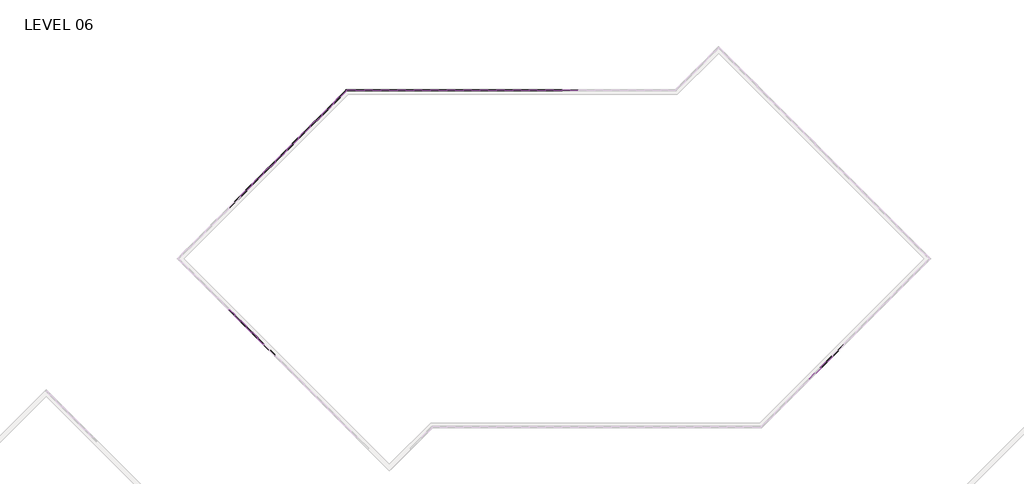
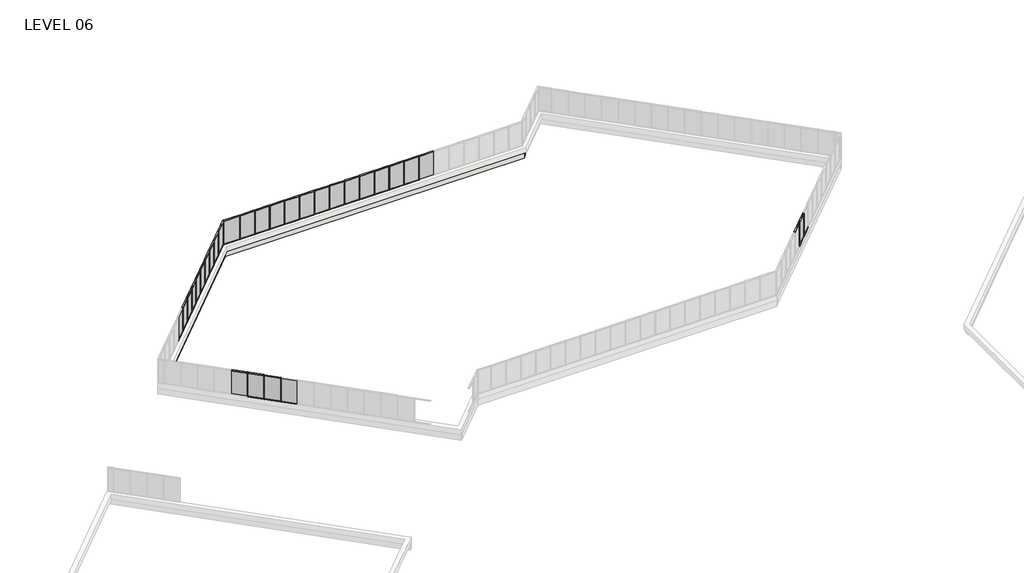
# One storey, part 14 of 17: 85 members, 29 plates, 2 walls.
"""IFC4 building model written with IfcOpenShell, lengths in millimetres."""

from ifc_helpers import new_model, si_unit, origin, place, context, project, spatial, faceted_brep, transform, mapped, element, save
from components import member_5247f267, member_e44af9ab, member_800970d4, member_1bd862b2, member_7ca0f77f, plate_67294edd, plate_bbcbcabf, plate_3fb62afd, plate_e0fd5134

model = new_model("IFC4")

# Units and contexts
model_context = context("Model", 3, world=origin())
ifc_project = project(units=[si_unit("LENGTHUNIT", "METRE", prefix="MILLI")], contexts=[model_context])

# Site, building, storey
site = spatial("IfcSite", under=ifc_project)
building = spatial("IfcBuilding", under=site)
storey = spatial("IfcBuildingStorey", under=building, Name="LEVEL 06", Elevation=19596.1)

# Members
placement = place(None, origin())
member_shape = member_5247f267(model_context)
element("IfcMember", 1, ObjectType="Rectangular Mullion : 2\" x 4.5\" rectangular", at=placement, inside=storey, context=model_context, shape_type="MappedRepresentation", body=[
    mapped(member_shape, transform((30562.55, 120127.9523049, 19596.1), x_axis=(0.0, 0.0, -1.0), y_axis=(0.0, 1.0, 0.0), z_axis=(1.0, 0.0, 0.0))),
])
element("IfcMember", 2, ObjectType="Rectangular Mullion : 2\" x 4.5\" rectangular", at=placement, inside=storey, context=model_context, shape_type="MappedRepresentation", body=[
    mapped(member_shape, transform((29038.55, 120127.9523049, 19596.1), x_axis=(0.0, 0.0, -1.0), y_axis=(0.0, 1.0, 0.0), z_axis=(1.0, 0.0, 0.0))),
])
element("IfcMember", 3, ObjectType="Rectangular Mullion : 2\" x 4.5\" rectangular", at=placement, inside=storey, context=model_context, shape_type="MappedRepresentation", body=[
    mapped(member_shape, transform((27514.55, 120127.9523049, 19596.1), x_axis=(0.0, 0.0, -1.0), y_axis=(0.0, 1.0, 0.0), z_axis=(1.0, 0.0, 0.0))),
])
element("IfcMember", 4, ObjectType="Rectangular Mullion : 2\" x 4.5\" rectangular", at=placement, inside=storey, context=model_context, shape_type="MappedRepresentation", body=[
    mapped(member_shape, transform((24466.55, 120127.9523049, 19596.1), x_axis=(0.0, 0.0, -1.0), y_axis=(0.0, 1.0, 0.0), z_axis=(1.0, 0.0, 0.0))),
])
element("IfcMember", 5, ObjectType="Rectangular Mullion : 2\" x 4.5\" rectangular", at=placement, inside=storey, context=model_context, shape_type="MappedRepresentation", body=[
    mapped(member_shape, transform((22942.55, 120127.9523049, 19596.1), x_axis=(0.0, 0.0, -1.0), y_axis=(0.0, 1.0, 0.0), z_axis=(1.0, 0.0, 0.0))),
])
element("IfcMember", 6, ObjectType="Rectangular Mullion : 2\" x 4.5\" rectangular", at=placement, inside=storey, context=model_context, shape_type="MappedRepresentation", body=[
    mapped(member_shape, transform((19894.55, 120127.9523049, 19596.1), x_axis=(0.0, 0.0, -1.0), y_axis=(0.0, 1.0, 0.0), z_axis=(1.0, 0.0, 0.0))),
])
element("IfcMember", 7, ObjectType="Rectangular Mullion : 2\" x 4.5\" rectangular", at=placement, inside=storey, context=model_context, shape_type="MappedRepresentation", body=[
    mapped(member_shape, transform((15322.55, 120127.9523049, 19596.1), x_axis=(0.0, 0.0, -1.0), y_axis=(0.0, 1.0, 0.0), z_axis=(1.0, 0.0, 0.0))),
])
element("IfcMember", 8, ObjectType="Rectangular Mullion : 2\" x 4.5\" rectangular", at=placement, inside=storey, context=model_context, shape_type="MappedRepresentation", body=[
    mapped(member_shape, transform((13798.55, 120127.9523049, 19596.1), x_axis=(0.0, 0.0, -1.0), y_axis=(0.0, 1.0, 0.0), z_axis=(1.0, 0.0, 0.0))),
])
element("IfcMember", 9, ObjectType="Rectangular Mullion : 2\" x 4.5\" rectangular", at=placement, inside=storey, context=model_context, shape_type="MappedRepresentation", body=[
    mapped(member_shape, transform((21418.55, 120127.9523049, 19596.1), x_axis=(0.0, 0.0, -1.0), y_axis=(0.0, 1.0, 0.0), z_axis=(1.0, 0.0, 0.0))),
])
element("IfcMember", 10, ObjectType="Rectangular Mullion : 2\" x 4.5\" rectangular", at=placement, inside=storey, context=model_context, shape_type="MappedRepresentation", body=[
    mapped(member_shape, transform((25990.55, 120127.9523049, 19596.1), x_axis=(0.0, 0.0, -1.0), y_axis=(0.0, 1.0, 0.0), z_axis=(1.0, 0.0, 0.0))),
])
element("IfcMember", 11, ObjectType="Rectangular Mullion : 2\" x 4.5\" rectangular", at=placement, inside=storey, context=model_context, shape_type="MappedRepresentation", body=[
    mapped(member_shape, transform((18370.55, 120127.9523049, 19596.1), x_axis=(0.0, 0.0, -1.0), y_axis=(0.0, 1.0, 0.0), z_axis=(1.0, 0.0, 0.0))),
])
element("IfcMember", 12, ObjectType="Rectangular Mullion : 2\" x 4.5\" rectangular", at=placement, inside=storey, context=model_context, shape_type="MappedRepresentation", body=[
    mapped(member_shape, transform((16846.55, 120127.9523049, 19596.1), x_axis=(0.0, 0.0, -1.0), y_axis=(0.0, 1.0, 0.0), z_axis=(1.0, 0.0, 0.0))),
])
element("IfcMember", 13, ObjectType="Rectangular Mullion : 2\" x 4.5\" rectangular", at=placement, inside=storey, context=model_context, shape_type="MappedRepresentation", body=[
    mapped(member_shape, transform((9397.6593581, 118915.3677986, 19596.1), x_axis=(0.0, 0.0, -1.0), y_axis=(-0.7071067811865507, 0.7071067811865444, 0.0), z_axis=(0.7071067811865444, 0.7071067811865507, 0.0))),
])
element("IfcMember", 14, ObjectType="Rectangular Mullion : 2\" x 4.5\" rectangular", at=placement, inside=storey, context=model_context, shape_type="MappedRepresentation", body=[
    mapped(member_shape, transform((8320.0286235, 117837.7370641, 19596.1), x_axis=(0.0, 0.0, -1.0), y_axis=(-0.7071067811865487, 0.7071067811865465, 0.0), z_axis=(0.7071067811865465, 0.7071067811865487, 0.0))),
])
element("IfcMember", 15, ObjectType="Rectangular Mullion : 2\" x 4.5\" rectangular", at=placement, inside=storey, context=model_context, shape_type="MappedRepresentation", body=[
    mapped(member_shape, transform((7242.397889, 116760.1063296, 19596.1), x_axis=(0.0, 0.0, -1.0), y_axis=(-0.7071067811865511, 0.707106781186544, 0.0), z_axis=(0.707106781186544, 0.7071067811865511, 0.0))),
])
element("IfcMember", 16, ObjectType="Rectangular Mullion : 2\" x 4.5\" rectangular", at=placement, inside=storey, context=model_context, shape_type="MappedRepresentation", body=[
    mapped(member_shape, transform((6164.7671545, 115682.475595, 19596.1), x_axis=(0.0, 0.0, -1.0), y_axis=(-0.7071067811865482, 0.7071067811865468, 0.0), z_axis=(0.7071067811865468, 0.7071067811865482, 0.0))),
])
element("IfcMember", 17, ObjectType="Rectangular Mullion : 2\" x 4.5\" rectangular", at=placement, inside=storey, context=model_context, shape_type="MappedRepresentation", body=[
    mapped(member_shape, transform((4009.5056854, 113527.214126, 19596.1), x_axis=(0.0, 0.0, -1.0), y_axis=(-0.7071067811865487, 0.7071067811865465, 0.0), z_axis=(0.7071067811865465, 0.7071067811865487, 0.0))),
])
element("IfcMember", 18, ObjectType="Rectangular Mullion : 2\" x 4.5\" rectangular", at=placement, inside=storey, context=model_context, shape_type="MappedRepresentation", body=[
    mapped(member_shape, transform((2931.8749509, 112449.5833914, 19596.1), x_axis=(0.0, 0.0, -1.0), y_axis=(-0.7071067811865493, 0.7071067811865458, 0.0), z_axis=(0.7071067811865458, 0.7071067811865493, 0.0))),
])
element("IfcMember", 19, ObjectType="Rectangular Mullion : 2\" x 4.5\" rectangular", at=placement, inside=storey, context=model_context, shape_type="MappedRepresentation", body=[
    mapped(member_shape, transform((1854.2442164, 111371.9526569, 19596.1), x_axis=(0.0, 0.0, -1.0), y_axis=(-0.7071067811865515, 0.7071067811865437, 0.0), z_axis=(0.7071067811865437, 0.7071067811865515, 0.0))),
])
element("IfcMember", 20, ObjectType="Rectangular Mullion : 2\" x 4.5\" rectangular", at=placement, inside=storey, context=model_context, shape_type="MappedRepresentation", body=[
    mapped(member_shape, transform((5087.1364199, 114604.8448605, 19596.1), x_axis=(0.0, 0.0, -1.0), y_axis=(-0.7071067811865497, 0.7071067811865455, 0.0), z_axis=(0.7071067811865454, 0.7071067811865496, 0.0))),
])
element("IfcMember", 21, ObjectType="Rectangular Mullion : 2\" x 4.5\" rectangular", at=placement, inside=storey, context=model_context, shape_type="MappedRepresentation", body=[
    mapped(member_shape, transform((776.6134818, 110294.3219224, 19596.1), x_axis=(0.0, 0.0, -1.0), y_axis=(-0.7071067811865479, 0.7071067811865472, 0.0), z_axis=(0.7071067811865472, 0.7071067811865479, 0.0))),
])
element("IfcMember", 22, ObjectType="Rectangular Mullion : 2\" x 4.5\" rectangular", at=placement, inside=storey, context=model_context, shape_type="MappedRepresentation", body=[
    mapped(member_shape, transform((812.713179, 98753.3329903, 19596.1), x_axis=(0.0, 0.0, -1.0), y_axis=(-0.7071067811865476, -0.7071067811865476, 0.0), z_axis=(-0.7071067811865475, 0.7071067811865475, 0.0))),
])
element("IfcMember", 23, ObjectType="Rectangular Mullion : 2\" x 4.5\" rectangular", at=placement, inside=storey, context=model_context, shape_type="MappedRepresentation", body=[
    mapped(member_shape, transform((1890.3439135, 97675.7022558, 19596.1), x_axis=(0.0, 0.0, -1.0), y_axis=(-0.7071067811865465, -0.7071067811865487, 0.0), z_axis=(-0.7071067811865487, 0.7071067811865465, 0.0))),
])
element("IfcMember", 24, ObjectType="Rectangular Mullion : 2\" x 4.5\" rectangular", at=placement, inside=storey, context=model_context, shape_type="MappedRepresentation", body=[
    mapped(member_shape, transform((2967.974648, 96598.0715213, 19596.1), x_axis=(0.0, 0.0, -1.0), y_axis=(-0.7071067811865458, -0.7071067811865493, 0.0), z_axis=(-0.7071067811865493, 0.7071067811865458, 0.0))),
])
element("IfcMember", 25, ObjectType="Rectangular Mullion : 2\" x 4.5\" rectangular", at=placement, inside=storey, context=model_context, shape_type="MappedRepresentation", body=[
    mapped(member_shape, transform((55642.2748488, 95556.4210181, 19596.1), x_axis=(0.0, 0.0, -1.0), y_axis=(0.7071067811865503, -0.7071067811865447, 0.0), z_axis=(-0.7071067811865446, -0.7071067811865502, 0.0))),
])
element("IfcMember", 26, ObjectType="Rectangular Mullion : 2\" x 4.5\" rectangular", at=placement, inside=storey, context=model_context, shape_type="MappedRepresentation", body=[
    mapped(member_shape, transform((54564.6515152, 94478.7976845, 19596.1), x_axis=(0.0, 0.0, -1.0), y_axis=(0.7071067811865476, -0.7071067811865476, 0.0), z_axis=(-0.7071067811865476, -0.7071067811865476, 0.0))),
])
element("IfcMember", 27, ObjectType="Rectangular Mullion : 2\" x 4.5\" rectangular", at=placement, inside=storey, context=model_context, shape_type="MappedRepresentation", body=[
    mapped(member_shape, transform((30613.35, 120127.9523049, 22186.9), x_axis=(0.0, 0.0, 1.0), y_axis=(0.0, 1.0, 0.0), z_axis=(-1.0, 0.0, 0.0))),
])
element("IfcMember", 28, ObjectType="Rectangular Mullion : 2\" x 4.5\" rectangular", at=placement, inside=storey, context=model_context, shape_type="MappedRepresentation", body=[
    mapped(member_shape, transform((29089.35, 120127.9523049, 22186.9), x_axis=(0.0, 0.0, 1.0), y_axis=(0.0, 1.0, 0.0), z_axis=(-1.0, 0.0, 0.0))),
])
element("IfcMember", 29, ObjectType="Rectangular Mullion : 2\" x 4.5\" rectangular", at=placement, inside=storey, context=model_context, shape_type="MappedRepresentation", body=[
    mapped(member_shape, transform((27565.35, 120127.9523049, 22186.9), x_axis=(0.0, 0.0, 1.0), y_axis=(0.0, 1.0, 0.0), z_axis=(-1.0, 0.0, 0.0))),
])
element("IfcMember", 30, ObjectType="Rectangular Mullion : 2\" x 4.5\" rectangular", at=placement, inside=storey, context=model_context, shape_type="MappedRepresentation", body=[
    mapped(member_shape, transform((24517.35, 120127.9523049, 22186.9), x_axis=(0.0, 0.0, 1.0), y_axis=(0.0, 1.0, 0.0), z_axis=(-1.0, 0.0, 0.0))),
])
element("IfcMember", 31, ObjectType="Rectangular Mullion : 2\" x 4.5\" rectangular", at=placement, inside=storey, context=model_context, shape_type="MappedRepresentation", body=[
    mapped(member_shape, transform((22993.35, 120127.9523049, 22186.9), x_axis=(0.0, 0.0, 1.0), y_axis=(0.0, 1.0, 0.0), z_axis=(-1.0, 0.0, 0.0))),
])
element("IfcMember", 32, ObjectType="Rectangular Mullion : 2\" x 4.5\" rectangular", at=placement, inside=storey, context=model_context, shape_type="MappedRepresentation", body=[
    mapped(member_shape, transform((19945.35, 120127.9523049, 22186.9), x_axis=(0.0, 0.0, 1.0), y_axis=(0.0, 1.0, 0.0), z_axis=(-1.0, 0.0, 0.0))),
])
element("IfcMember", 33, ObjectType="Rectangular Mullion : 2\" x 4.5\" rectangular", at=placement, inside=storey, context=model_context, shape_type="MappedRepresentation", body=[
    mapped(member_shape, transform((15373.35, 120127.9523049, 22186.9), x_axis=(0.0, 0.0, 1.0), y_axis=(0.0, 1.0, 0.0), z_axis=(-1.0, 0.0, 0.0))),
])
element("IfcMember", 34, ObjectType="Rectangular Mullion : 2\" x 4.5\" rectangular", at=placement, inside=storey, context=model_context, shape_type="MappedRepresentation", body=[
    mapped(member_shape, transform((13849.35, 120127.9523049, 22186.9), x_axis=(0.0, 0.0, 1.0), y_axis=(0.0, 1.0, 0.0), z_axis=(-1.0, 0.0, 0.0))),
])
element("IfcMember", 35, ObjectType="Rectangular Mullion : 2\" x 4.5\" rectangular", at=placement, inside=storey, context=model_context, shape_type="MappedRepresentation", body=[
    mapped(member_shape, transform((21469.35, 120127.9523049, 22186.9), x_axis=(0.0, 0.0, 1.0), y_axis=(0.0, 1.0, 0.0), z_axis=(-1.0, 0.0, 0.0))),
])
element("IfcMember", 36, ObjectType="Rectangular Mullion : 2\" x 4.5\" rectangular", at=placement, inside=storey, context=model_context, shape_type="MappedRepresentation", body=[
    mapped(member_shape, transform((26041.35, 120127.9523049, 22186.9), x_axis=(0.0, 0.0, 1.0), y_axis=(0.0, 1.0, 0.0), z_axis=(-1.0, 0.0, 0.0))),
])
element("IfcMember", 37, ObjectType="Rectangular Mullion : 2\" x 4.5\" rectangular", at=placement, inside=storey, context=model_context, shape_type="MappedRepresentation", body=[
    mapped(member_shape, transform((18421.35, 120127.9523049, 22186.9), x_axis=(0.0, 0.0, 1.0), y_axis=(0.0, 1.0, 0.0), z_axis=(-1.0, 0.0, 0.0))),
])
element("IfcMember", 38, ObjectType="Rectangular Mullion : 2\" x 4.5\" rectangular", at=placement, inside=storey, context=model_context, shape_type="MappedRepresentation", body=[
    mapped(member_shape, transform((16897.35, 120127.9523049, 22186.9), x_axis=(0.0, 0.0, 1.0), y_axis=(0.0, 1.0, 0.0), z_axis=(-1.0, 0.0, 0.0))),
])
element("IfcMember", 39, ObjectType="Rectangular Mullion : 2\" x 4.5\" rectangular", at=placement, inside=storey, context=model_context, shape_type="MappedRepresentation", body=[
    mapped(member_shape, transform((12325.35, 120127.9523049, 22186.9), x_axis=(0.0, 0.0, 1.0), y_axis=(0.0, 1.0, 0.0), z_axis=(-1.0, 0.0, 0.0))),
])
element("IfcMember", 40, ObjectType="Rectangular Mullion : 2\" x 4.5\" rectangular", at=placement, inside=storey, context=model_context, shape_type="MappedRepresentation", body=[
    mapped(member_shape, transform((8355.949648, 117873.6580886, 22186.9), x_axis=(0.0, 0.0, 1.0), y_axis=(-0.7071067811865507, 0.7071067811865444, 0.0), z_axis=(-0.7071067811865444, -0.7071067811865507, 0.0))),
])
element("IfcMember", 41, ObjectType="Rectangular Mullion : 2\" x 4.5\" rectangular", at=placement, inside=storey, context=model_context, shape_type="MappedRepresentation", body=[
    mapped(member_shape, transform((7278.3189135, 116796.027354, 22186.9), x_axis=(0.0, 0.0, 1.0), y_axis=(-0.7071067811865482, 0.7071067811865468, 0.0), z_axis=(-0.7071067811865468, -0.7071067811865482, 0.0))),
])
element("IfcMember", 42, ObjectType="Rectangular Mullion : 2\" x 4.5\" rectangular", at=placement, inside=storey, context=model_context, shape_type="MappedRepresentation", body=[
    mapped(member_shape, transform((6200.688179, 115718.3966195, 22186.9), x_axis=(0.0, 0.0, 1.0), y_axis=(-0.7071067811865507, 0.7071067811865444, 0.0), z_axis=(-0.7071067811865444, -0.7071067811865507, 0.0))),
])
element("IfcMember", 43, ObjectType="Rectangular Mullion : 2\" x 4.5\" rectangular", at=placement, inside=storey, context=model_context, shape_type="MappedRepresentation", body=[
    mapped(member_shape, transform((4045.4267099, 113563.1351505, 22186.9), x_axis=(0.0, 0.0, 1.0), y_axis=(-0.7071067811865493, 0.7071067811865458, 0.0), z_axis=(-0.7071067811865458, -0.7071067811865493, 0.0))),
])
element("IfcMember", 44, ObjectType="Rectangular Mullion : 2\" x 4.5\" rectangular", at=placement, inside=storey, context=model_context, shape_type="MappedRepresentation", body=[
    mapped(member_shape, transform((2967.7959754, 112485.5044159, 22186.9), x_axis=(0.0, 0.0, 1.0), y_axis=(-0.7071067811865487, 0.7071067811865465, 0.0), z_axis=(-0.7071067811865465, -0.7071067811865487, 0.0))),
])
element("IfcMember", 45, ObjectType="Rectangular Mullion : 2\" x 4.5\" rectangular", at=placement, inside=storey, context=model_context, shape_type="MappedRepresentation", body=[
    mapped(member_shape, transform((1890.1652408, 111407.8736814, 22186.9), x_axis=(0.0, 0.0, 1.0), y_axis=(-0.7071067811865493, 0.7071067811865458, 0.0), z_axis=(-0.7071067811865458, -0.7071067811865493, 0.0))),
])
element("IfcMember", 46, ObjectType="Rectangular Mullion : 2\" x 4.5\" rectangular", at=placement, inside=storey, context=model_context, shape_type="MappedRepresentation", body=[
    mapped(member_shape, transform((5123.0574444, 114640.765885, 22186.9), x_axis=(0.0, 0.0, 1.0), y_axis=(-0.707106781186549, 0.7071067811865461, 0.0), z_axis=(-0.707106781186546, -0.7071067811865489, 0.0))),
])
element("IfcMember", 47, ObjectType="Rectangular Mullion : 2\" x 4.5\" rectangular", at=placement, inside=storey, context=model_context, shape_type="MappedRepresentation", body=[
    mapped(member_shape, transform((812.5345063, 110330.2429469, 22186.9), x_axis=(0.0, 0.0, 1.0), y_axis=(-0.7071067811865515, 0.7071067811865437, 0.0), z_axis=(-0.7071067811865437, -0.7071067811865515, 0.0))),
])
element("IfcMember", 48, ObjectType="Rectangular Mullion : 2\" x 4.5\" rectangular", at=placement, inside=storey, context=model_context, shape_type="MappedRepresentation", body=[
    mapped(member_shape, transform((776.7921545, 98789.2540148, 22186.9), x_axis=(0.0, 0.0, 1.0), y_axis=(-0.7071067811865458, -0.7071067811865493, 0.0), z_axis=(0.7071067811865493, -0.7071067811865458, 0.0))),
])
element("IfcMember", 49, ObjectType="Rectangular Mullion : 2\" x 4.5\" rectangular", at=placement, inside=storey, context=model_context, shape_type="MappedRepresentation", body=[
    mapped(member_shape, transform((1854.422889, 97711.6232803, 22186.9), x_axis=(0.0, 0.0, 1.0), y_axis=(-0.7071067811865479, -0.7071067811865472, 0.0), z_axis=(0.7071067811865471, -0.7071067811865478, 0.0))),
])
element("IfcMember", 50, ObjectType="Rectangular Mullion : 2\" x 4.5\" rectangular", at=placement, inside=storey, context=model_context, shape_type="MappedRepresentation", body=[
    mapped(member_shape, transform((2932.0536235, 96633.9925458, 22186.9), x_axis=(0.0, 0.0, 1.0), y_axis=(-0.7071067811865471, -0.7071067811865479, 0.0), z_axis=(0.7071067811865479, -0.7071067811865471, 0.0))),
])
element("IfcMember", 51, ObjectType="Rectangular Mullion : 2\" x 4.5\" rectangular", at=placement, inside=storey, context=model_context, shape_type="MappedRepresentation", body=[
    mapped(member_shape, transform((55606.3538244, 95520.4999937, 22186.9), x_axis=(0.0, 0.0, 1.0), y_axis=(0.7071067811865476, -0.7071067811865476, 0.0), z_axis=(0.7071067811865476, 0.7071067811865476, 0.0))),
])
element("IfcMember", 52, ObjectType="Rectangular Mullion : 2\" x 4.5\" rectangular", at=placement, inside=storey, context=model_context, shape_type="MappedRepresentation", body=[
    mapped(member_shape, transform((54528.7304907, 94442.87666, 22186.9), x_axis=(0.0, 0.0, 1.0), y_axis=(0.7071067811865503, -0.7071067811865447, 0.0), z_axis=(0.7071067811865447, 0.7071067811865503, 0.0))),
])
member_2_shape = member_e44af9ab(model_context)
element("IfcMember", 53, ObjectType="Rectangular Mullion : 2\" x 4.5\" rectangular", at=placement, inside=storey, context=model_context, shape_type="MappedRepresentation", body=[
    mapped(member_2_shape, transform((30587.95, 120127.9523049, 19596.1), x_axis=(-1.0, 0.0, 0.0), y_axis=(0.0, 1.0, 0.0), z_axis=(0.0, 0.0, -1.0))),
])
element("IfcMember", 54, ObjectType="Rectangular Mullion : 2\" x 4.5\" rectangular", at=placement, inside=storey, context=model_context, shape_type="MappedRepresentation", body=[
    mapped(member_2_shape, transform((29063.95, 120127.9523049, 19596.1), x_axis=(-1.0, 0.0, 0.0), y_axis=(0.0, 1.0, 0.0), z_axis=(0.0, 0.0, -1.0))),
])
element("IfcMember", 55, ObjectType="Rectangular Mullion : 2\" x 4.5\" rectangular", at=placement, inside=storey, context=model_context, shape_type="MappedRepresentation", body=[
    mapped(member_2_shape, transform((27539.95, 120127.9523049, 19596.1), x_axis=(-1.0, 0.0, 0.0), y_axis=(0.0, 1.0, 0.0), z_axis=(0.0, 0.0, -1.0))),
])
element("IfcMember", 56, ObjectType="Rectangular Mullion : 2\" x 4.5\" rectangular", at=placement, inside=storey, context=model_context, shape_type="MappedRepresentation", body=[
    mapped(member_2_shape, transform((24491.95, 120127.9523049, 19596.1), x_axis=(-1.0, 0.0, 0.0), y_axis=(0.0, 1.0, 0.0), z_axis=(0.0, 0.0, -1.0))),
])
element("IfcMember", 57, ObjectType="Rectangular Mullion : 2\" x 4.5\" rectangular", at=placement, inside=storey, context=model_context, shape_type="MappedRepresentation", body=[
    mapped(member_2_shape, transform((22967.95, 120127.9523049, 19596.1), x_axis=(-1.0, 0.0, 0.0), y_axis=(0.0, 1.0, 0.0), z_axis=(0.0, 0.0, -1.0))),
])
element("IfcMember", 58, ObjectType="Rectangular Mullion : 2\" x 4.5\" rectangular", at=placement, inside=storey, context=model_context, shape_type="MappedRepresentation", body=[
    mapped(member_2_shape, transform((19919.95, 120127.9523049, 19596.1), x_axis=(-1.0, 0.0, 0.0), y_axis=(0.0, 1.0, 0.0), z_axis=(0.0, 0.0, -1.0))),
])
element("IfcMember", 59, ObjectType="Rectangular Mullion : 2\" x 4.5\" rectangular", at=placement, inside=storey, context=model_context, shape_type="MappedRepresentation", body=[
    mapped(member_2_shape, transform((15347.95, 120127.9523049, 19596.1), x_axis=(-1.0, 0.0, 0.0), y_axis=(0.0, 1.0, 0.0), z_axis=(0.0, 0.0, -1.0))),
])
element("IfcMember", 60, ObjectType="Rectangular Mullion : 2\" x 4.5\" rectangular", at=placement, inside=storey, context=model_context, shape_type="MappedRepresentation", body=[
    mapped(member_2_shape, transform((13823.95, 120127.9523049, 19596.1), x_axis=(-1.0, 0.0, 0.0), y_axis=(0.0, 1.0, 0.0), z_axis=(0.0, 0.0, -1.0))),
])
element("IfcMember", 61, ObjectType="Rectangular Mullion : 2\" x 4.5\" rectangular", at=placement, inside=storey, context=model_context, shape_type="MappedRepresentation", body=[
    mapped(member_2_shape, transform((21443.95, 120127.9523049, 19596.1), x_axis=(-1.0, 0.0, 0.0), y_axis=(0.0, 1.0, 0.0), z_axis=(0.0, 0.0, -1.0))),
])
element("IfcMember", 62, ObjectType="Rectangular Mullion : 2\" x 4.5\" rectangular", at=placement, inside=storey, context=model_context, shape_type="MappedRepresentation", body=[
    mapped(member_2_shape, transform((26015.95, 120127.9523049, 19596.1), x_axis=(-1.0, 0.0, 0.0), y_axis=(0.0, 1.0, 0.0), z_axis=(0.0, 0.0, -1.0))),
])
element("IfcMember", 63, ObjectType="Rectangular Mullion : 2\" x 4.5\" rectangular", at=placement, inside=storey, context=model_context, shape_type="MappedRepresentation", body=[
    mapped(member_2_shape, transform((18395.95, 120127.9523049, 19596.1), x_axis=(-1.0, 0.0, 0.0), y_axis=(0.0, 1.0, 0.0), z_axis=(0.0, 0.0, -1.0))),
])
element("IfcMember", 64, ObjectType="Rectangular Mullion : 2\" x 4.5\" rectangular", at=placement, inside=storey, context=model_context, shape_type="MappedRepresentation", body=[
    mapped(member_2_shape, transform((16871.95, 120127.9523049, 19596.1), x_axis=(-1.0, 0.0, 0.0), y_axis=(0.0, 1.0, 0.0), z_axis=(0.0, 0.0, -1.0))),
])
element("IfcMember", 65, ObjectType="Rectangular Mullion : 2\" x 4.5\" rectangular", at=placement, inside=storey, context=model_context, shape_type="MappedRepresentation", body=[
    mapped(member_2_shape, transform((12299.95, 120127.9523049, 19596.1), x_axis=(-1.0, 0.0, 0.0), y_axis=(0.0, 1.0, 0.0), z_axis=(0.0, 0.0, -1.0))),
])
element("IfcMember", 66, ObjectType="Rectangular Mullion : 2\" x 4.5\" rectangular", at=placement, inside=storey, context=model_context, shape_type="MappedRepresentation", body=[
    mapped(member_2_shape, transform((9415.6198703, 118933.3283108, 19596.1), x_axis=(-0.7071067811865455, -0.7071067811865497, 0.0), y_axis=(-0.7071067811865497, 0.7071067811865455, 0.0), z_axis=(0.0, 0.0, -1.0))),
])
element("IfcMember", 67, ObjectType="Rectangular Mullion : 2\" x 4.5\" rectangular", at=placement, inside=storey, context=model_context, shape_type="MappedRepresentation", body=[
    mapped(member_2_shape, transform((8337.9891358, 117855.6975763, 19596.1), x_axis=(-0.7071067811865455, -0.7071067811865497, 0.0), y_axis=(-0.7071067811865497, 0.7071067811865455, 0.0), z_axis=(0.0, 0.0, -1.0))),
])
element("IfcMember", 68, ObjectType="Rectangular Mullion : 2\" x 4.5\" rectangular", at=placement, inside=storey, context=model_context, shape_type="MappedRepresentation", body=[
    mapped(member_2_shape, transform((7260.3584012, 116778.0668418, 19596.1), x_axis=(-0.7071067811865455, -0.7071067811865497, 0.0), y_axis=(-0.7071067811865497, 0.7071067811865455, 0.0), z_axis=(0.0, 0.0, -1.0))),
])
element("IfcMember", 69, ObjectType="Rectangular Mullion : 2\" x 4.5\" rectangular", at=placement, inside=storey, context=model_context, shape_type="MappedRepresentation", body=[
    mapped(member_2_shape, transform((6182.7276667, 115700.4361073, 19596.1), x_axis=(-0.7071067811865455, -0.7071067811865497, 0.0), y_axis=(-0.7071067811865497, 0.7071067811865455, 0.0), z_axis=(0.0, 0.0, -1.0))),
])
element("IfcMember", 70, ObjectType="Rectangular Mullion : 2\" x 4.5\" rectangular", at=placement, inside=storey, context=model_context, shape_type="MappedRepresentation", body=[
    mapped(member_2_shape, transform((4027.4661977, 113545.1746382, 19596.1), x_axis=(-0.7071067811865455, -0.7071067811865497, 0.0), y_axis=(-0.7071067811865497, 0.7071067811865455, 0.0), z_axis=(0.0, 0.0, -1.0))),
])
element("IfcMember", 71, ObjectType="Rectangular Mullion : 2\" x 4.5\" rectangular", at=placement, inside=storey, context=model_context, shape_type="MappedRepresentation", body=[
    mapped(member_2_shape, transform((2949.8354631, 112467.5439037, 19596.1), x_axis=(-0.7071067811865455, -0.7071067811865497, 0.0), y_axis=(-0.7071067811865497, 0.7071067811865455, 0.0), z_axis=(0.0, 0.0, -1.0))),
])
element("IfcMember", 72, ObjectType="Rectangular Mullion : 2\" x 4.5\" rectangular", at=placement, inside=storey, context=model_context, shape_type="MappedRepresentation", body=[
    mapped(member_2_shape, transform((1872.2047286, 111389.9131692, 19596.1), x_axis=(-0.7071067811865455, -0.7071067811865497, 0.0), y_axis=(-0.7071067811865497, 0.7071067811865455, 0.0), z_axis=(0.0, 0.0, -1.0))),
])
element("IfcMember", 73, ObjectType="Rectangular Mullion : 2\" x 4.5\" rectangular", at=placement, inside=storey, context=model_context, shape_type="MappedRepresentation", body=[
    mapped(member_2_shape, transform((5105.0969322, 114622.8053727, 19596.1), x_axis=(-0.7071067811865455, -0.7071067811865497, 0.0), y_axis=(-0.7071067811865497, 0.7071067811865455, 0.0), z_axis=(0.0, 0.0, -1.0))),
])
element("IfcMember", 74, ObjectType="Rectangular Mullion : 2\" x 4.5\" rectangular", at=placement, inside=storey, context=model_context, shape_type="MappedRepresentation", body=[
    mapped(member_2_shape, transform((794.5739941, 110312.2824346, 19596.1), x_axis=(-0.7071067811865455, -0.7071067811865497, 0.0), y_axis=(-0.7071067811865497, 0.7071067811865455, 0.0), z_axis=(0.0, 0.0, -1.0))),
])
element("IfcMember", 75, ObjectType="Rectangular Mullion : 2\" x 4.5\" rectangular", at=placement, inside=storey, context=model_context, shape_type="MappedRepresentation", body=[
    mapped(member_2_shape, transform((794.7526667, 98771.2935026, 19596.1), x_axis=(0.7071067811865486, -0.7071067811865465, 0.0), y_axis=(-0.7071067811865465, -0.7071067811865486, 0.0), z_axis=(0.0, 0.0, -1.0))),
])
element("IfcMember", 76, ObjectType="Rectangular Mullion : 2\" x 4.5\" rectangular", at=placement, inside=storey, context=model_context, shape_type="MappedRepresentation", body=[
    mapped(member_2_shape, transform((1872.3834012, 97693.6627681, 19596.1), x_axis=(0.7071067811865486, -0.7071067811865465, 0.0), y_axis=(-0.7071067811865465, -0.7071067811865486, 0.0), z_axis=(0.0, 0.0, -1.0))),
])
element("IfcMember", 77, ObjectType="Rectangular Mullion : 2\" x 4.5\" rectangular", at=placement, inside=storey, context=model_context, shape_type="MappedRepresentation", body=[
    mapped(member_2_shape, transform((2950.0141358, 96616.0320335, 19596.1), x_axis=(0.7071067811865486, -0.7071067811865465, 0.0), y_axis=(-0.7071067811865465, -0.7071067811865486, 0.0), z_axis=(0.0, 0.0, -1.0))),
])
element("IfcMember", 78, ObjectType="Rectangular Mullion : 2\" x 4.5\" rectangular", at=placement, inside=storey, context=model_context, shape_type="MappedRepresentation", body=[
    mapped(member_2_shape, transform((55624.3143366, 95538.4605059, 19596.1), x_axis=(0.7071067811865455, 0.7071067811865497, 0.0), y_axis=(0.7071067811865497, -0.7071067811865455, 0.0), z_axis=(0.0, 0.0, -1.0))),
])
element("IfcMember", 79, ObjectType="Rectangular Mullion : 2\" x 4.5\" rectangular", at=placement, inside=storey, context=model_context, shape_type="MappedRepresentation", body=[
    mapped(member_2_shape, transform((54546.6910029, 94460.8371722, 19596.1), x_axis=(0.7071067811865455, 0.7071067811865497, 0.0), y_axis=(0.7071067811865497, -0.7071067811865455, 0.0), z_axis=(0.0, 0.0, -1.0))),
])
member_3_shape = member_800970d4(model_context)
element("IfcMember", 80, ObjectType="Rectangular Mullion : 2\" x 4.5\" rectangular", at=placement, inside=storey, context=model_context, shape_type="MappedRepresentation", body=[
    mapped(member_3_shape, transform((10610.2438644, 120127.9523049, 19596.1), x_axis=(-1.0, 0.0, 0.0), y_axis=(0.0, 1.0, 0.0), z_axis=(0.0, 0.0, -1.0))),
])
element("IfcMember", 81, ObjectType="Rectangular Mullion : 2\" x 4.5\" rectangular", at=placement, inside=storey, context=model_context, shape_type="MappedRepresentation", body=[
    mapped(member_3_shape, transform((10610.2438644, 120127.9523049, 22186.9), x_axis=(0.7071067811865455, 0.7071067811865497, 0.0), y_axis=(-0.7071067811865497, 0.7071067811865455, 0.0), z_axis=(0.0, 0.0, 1.0))),
])
member_4_shape = member_1bd862b2(model_context)
element("IfcMember", 82, ObjectType="Rectangular Mullion : 2\" x 4.5\" rectangular", at=placement, inside=storey, context=model_context, shape_type="MappedRepresentation", body=[
    mapped(member_4_shape, transform((10661.0438644, 120127.9523049, 22186.9), x_axis=(0.0, 0.0, 1.0), y_axis=(0.0, 1.0, 0.0), z_axis=(-1.0, 0.0, 0.0))),
])
element("IfcMember", 83, ObjectType="Rectangular Mullion : 2\" x 4.5\" rectangular", at=placement, inside=storey, context=model_context, shape_type="MappedRepresentation", body=[
    mapped(member_4_shape, transform((12274.55, 120127.9523049, 19596.1), x_axis=(0.0, 0.0, -1.0), y_axis=(0.0, 1.0, 0.0), z_axis=(1.0, 0.0, 0.0))),
])
member_5_shape = member_7ca0f77f(model_context)
element("IfcMember", 84, ObjectType="Rectangular Mullion : 2\" x 4.5\" rectangular", at=placement, inside=storey, context=model_context, shape_type="MappedRepresentation", body=[
    mapped(member_5_shape, transform((9433.5803825, 118951.2888231, 22186.9), x_axis=(0.0, 0.0, 1.0), y_axis=(-0.7071067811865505, 0.7071067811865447, 0.0), z_axis=(-0.7071067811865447, -0.7071067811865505, 0.0))),
])
element("IfcMember", 85, ObjectType="Rectangular Mullion : 2\" x 4.5\" rectangular", at=placement, inside=storey, context=model_context, shape_type="MappedRepresentation", body=[
    mapped(member_5_shape, transform((10574.3228399, 120092.0312804, 19596.1), x_axis=(0.0, 0.0, -1.0), y_axis=(-0.7071067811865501, 0.7071067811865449, 0.0), z_axis=(0.7071067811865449, 0.7071067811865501, 0.0))),
])

# Plates
plate_shape = plate_67294edd(model_context)
element("IfcPlate", 86, ObjectType="System Panel : 1/4\" Glass", at=placement, inside=storey, context=model_context, shape_type="MappedRepresentation", body=[
    mapped(plate_shape, transform((29825.95, 120127.9523049, 19646.9), x_axis=(-1.0, 0.0, 0.0), y_axis=(0.0, -1.0, 0.0), z_axis=(0.0, 0.0, 1.0))),
])
element("IfcPlate", 87, ObjectType="System Panel : 1/4\" Glass", at=placement, inside=storey, context=model_context, shape_type="MappedRepresentation", body=[
    mapped(plate_shape, transform((28301.95, 120127.9523049, 19646.9), x_axis=(-1.0, 0.0, 0.0), y_axis=(0.0, -1.0, 0.0), z_axis=(0.0, 0.0, 1.0))),
])
element("IfcPlate", 88, ObjectType="System Panel : 1/4\" Glass", at=placement, inside=storey, context=model_context, shape_type="MappedRepresentation", body=[
    mapped(plate_shape, transform((26777.95, 120127.9523049, 19646.9), x_axis=(-1.0, 0.0, 0.0), y_axis=(0.0, -1.0, 0.0), z_axis=(0.0, 0.0, 1.0))),
])
element("IfcPlate", 89, ObjectType="System Panel : 1/4\" Glass", at=placement, inside=storey, context=model_context, shape_type="MappedRepresentation", body=[
    mapped(plate_shape, transform((23729.95, 120127.9523049, 19646.9), x_axis=(-1.0, 0.0, 0.0), y_axis=(0.0, -1.0, 0.0), z_axis=(0.0, 0.0, 1.0))),
])
element("IfcPlate", 90, ObjectType="System Panel : 1/4\" Glass", at=placement, inside=storey, context=model_context, shape_type="MappedRepresentation", body=[
    mapped(plate_shape, transform((22205.95, 120127.9523049, 19646.9), x_axis=(-1.0, 0.0, 0.0), y_axis=(0.0, -1.0, 0.0), z_axis=(0.0, 0.0, 1.0))),
])
element("IfcPlate", 91, ObjectType="System Panel : 1/4\" Glass", at=placement, inside=storey, context=model_context, shape_type="MappedRepresentation", body=[
    mapped(plate_shape, transform((19157.95, 120127.9523049, 19646.9), x_axis=(-1.0, 0.0, 0.0), y_axis=(0.0, -1.0, 0.0), z_axis=(0.0, 0.0, 1.0))),
])
element("IfcPlate", 92, ObjectType="System Panel : 1/4\" Glass", at=placement, inside=storey, context=model_context, shape_type="MappedRepresentation", body=[
    mapped(plate_shape, transform((14585.95, 120127.9523049, 19646.9), x_axis=(-1.0, 0.0, 0.0), y_axis=(0.0, -1.0, 0.0), z_axis=(0.0, 0.0, 1.0))),
])
element("IfcPlate", 93, ObjectType="System Panel : 1/4\" Glass", at=placement, inside=storey, context=model_context, shape_type="MappedRepresentation", body=[
    mapped(plate_shape, transform((13061.95, 120127.9523049, 19646.9), x_axis=(-1.0, 0.0, 0.0), y_axis=(0.0, -1.0, 0.0), z_axis=(0.0, 0.0, 1.0))),
])
element("IfcPlate", 94, ObjectType="System Panel : 1/4\" Glass", at=placement, inside=storey, context=model_context, shape_type="MappedRepresentation", body=[
    mapped(plate_shape, transform((31349.95, 120127.9523049, 19646.9), x_axis=(-1.0, 0.0, 0.0), y_axis=(0.0, -1.0, 0.0), z_axis=(0.0, 0.0, 1.0))),
])
element("IfcPlate", 95, ObjectType="System Panel : 1/4\" Glass", at=placement, inside=storey, context=model_context, shape_type="MappedRepresentation", body=[
    mapped(plate_shape, transform((20681.95, 120127.9523049, 19646.9), x_axis=(-1.0, 0.0, 0.0), y_axis=(0.0, -1.0, 0.0), z_axis=(0.0, 0.0, 1.0))),
])
element("IfcPlate", 96, ObjectType="System Panel : 1/4\" Glass", at=placement, inside=storey, context=model_context, shape_type="MappedRepresentation", body=[
    mapped(plate_shape, transform((25253.95, 120127.9523049, 19646.9), x_axis=(-1.0, 0.0, 0.0), y_axis=(0.0, -1.0, 0.0), z_axis=(0.0, 0.0, 1.0))),
])
element("IfcPlate", 97, ObjectType="System Panel : 1/4\" Glass", at=placement, inside=storey, context=model_context, shape_type="MappedRepresentation", body=[
    mapped(plate_shape, transform((17633.95, 120127.9523049, 19646.9), x_axis=(-1.0, 0.0, 0.0), y_axis=(0.0, -1.0, 0.0), z_axis=(0.0, 0.0, 1.0))),
])
element("IfcPlate", 98, ObjectType="System Panel : 1/4\" Glass", at=placement, inside=storey, context=model_context, shape_type="MappedRepresentation", body=[
    mapped(plate_shape, transform((16109.95, 120127.9523049, 19646.9), x_axis=(-1.0, 0.0, 0.0), y_axis=(0.0, -1.0, 0.0), z_axis=(0.0, 0.0, 1.0))),
])
element("IfcPlate", 99, ObjectType="System Panel : 1/4\" Glass", at=placement, inside=storey, context=model_context, shape_type="MappedRepresentation", body=[
    mapped(plate_shape, transform((8876.804503, 118394.5129436, 19646.9), x_axis=(-0.7071067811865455, -0.7071067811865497, 0.0), y_axis=(0.7071067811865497, -0.7071067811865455, 0.0), z_axis=(0.0, 0.0, 1.0))),
])
element("IfcPlate", 100, ObjectType="System Panel : 1/4\" Glass", at=placement, inside=storey, context=model_context, shape_type="MappedRepresentation", body=[
    mapped(plate_shape, transform((7799.1737685, 117316.8822091, 19646.9), x_axis=(-0.7071067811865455, -0.7071067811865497, 0.0), y_axis=(0.7071067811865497, -0.7071067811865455, 0.0), z_axis=(0.0, 0.0, 1.0))),
])
element("IfcPlate", 101, ObjectType="System Panel : 1/4\" Glass", at=placement, inside=storey, context=model_context, shape_type="MappedRepresentation", body=[
    mapped(plate_shape, transform((6721.543034, 116239.2514745, 19646.9), x_axis=(-0.7071067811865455, -0.7071067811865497, 0.0), y_axis=(0.7071067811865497, -0.7071067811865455, 0.0), z_axis=(0.0, 0.0, 1.0))),
])
element("IfcPlate", 102, ObjectType="System Panel : 1/4\" Glass", at=placement, inside=storey, context=model_context, shape_type="MappedRepresentation", body=[
    mapped(plate_shape, transform((5643.9122995, 115161.62074, 19646.9), x_axis=(-0.7071067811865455, -0.7071067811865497, 0.0), y_axis=(0.7071067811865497, -0.7071067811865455, 0.0), z_axis=(0.0, 0.0, 1.0))),
])
element("IfcPlate", 103, ObjectType="System Panel : 1/4\" Glass", at=placement, inside=storey, context=model_context, shape_type="MappedRepresentation", body=[
    mapped(plate_shape, transform((3488.6508304, 113006.3592709, 19646.9), x_axis=(-0.7071067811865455, -0.7071067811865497, 0.0), y_axis=(0.7071067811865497, -0.7071067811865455, 0.0), z_axis=(0.0, 0.0, 1.0))),
])
element("IfcPlate", 104, ObjectType="System Panel : 1/4\" Glass", at=placement, inside=storey, context=model_context, shape_type="MappedRepresentation", body=[
    mapped(plate_shape, transform((2411.0200959, 111928.7285364, 19646.9), x_axis=(-0.7071067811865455, -0.7071067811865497, 0.0), y_axis=(0.7071067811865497, -0.7071067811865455, 0.0), z_axis=(0.0, 0.0, 1.0))),
])
element("IfcPlate", 105, ObjectType="System Panel : 1/4\" Glass", at=placement, inside=storey, context=model_context, shape_type="MappedRepresentation", body=[
    mapped(plate_shape, transform((1333.3893613, 110851.0978019, 19646.9), x_axis=(-0.7071067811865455, -0.7071067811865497, 0.0), y_axis=(0.7071067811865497, -0.7071067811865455, 0.0), z_axis=(0.0, 0.0, 1.0))),
])
element("IfcPlate", 106, ObjectType="System Panel : 1/4\" Glass", at=placement, inside=storey, context=model_context, shape_type="MappedRepresentation", body=[
    mapped(plate_shape, transform((4566.2815649, 114083.9900055, 19646.9), x_axis=(-0.7071067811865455, -0.7071067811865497, 0.0), y_axis=(0.7071067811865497, -0.7071067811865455, 0.0), z_axis=(0.0, 0.0, 1.0))),
])
element("IfcPlate", 107, ObjectType="System Panel : 1/4\" Glass", at=placement, inside=storey, context=model_context, shape_type="MappedRepresentation", body=[
    mapped(plate_shape, transform((255.7586268, 109773.4670674, 19646.9), x_axis=(-0.7071067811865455, -0.7071067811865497, 0.0), y_axis=(0.7071067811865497, -0.7071067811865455, 0.0), z_axis=(0.0, 0.0, 1.0))),
])
element("IfcPlate", 108, ObjectType="System Panel : 1/4\" Glass", at=placement, inside=storey, context=model_context, shape_type="MappedRepresentation", body=[
    mapped(plate_shape, transform((1333.568034, 98232.4781353, 19646.9), x_axis=(0.7071067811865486, -0.7071067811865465, 0.0), y_axis=(0.7071067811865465, 0.7071067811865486, 0.0), z_axis=(0.0, 0.0, 1.0))),
])
element("IfcPlate", 109, ObjectType="System Panel : 1/4\" Glass", at=placement, inside=storey, context=model_context, shape_type="MappedRepresentation", body=[
    mapped(plate_shape, transform((2411.1987685, 97154.8474008, 19646.9), x_axis=(0.7071067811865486, -0.7071067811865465, 0.0), y_axis=(0.7071067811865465, 0.7071067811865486, 0.0), z_axis=(0.0, 0.0, 1.0))),
])
element("IfcPlate", 110, ObjectType="System Panel : 1/4\" Glass", at=placement, inside=storey, context=model_context, shape_type="MappedRepresentation", body=[
    mapped(plate_shape, transform((3488.829503, 96077.2166663, 19646.9), x_axis=(0.7071067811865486, -0.7071067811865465, 0.0), y_axis=(0.7071067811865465, 0.7071067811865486, 0.0), z_axis=(0.0, 0.0, 1.0))),
])
element("IfcPlate", 111, ObjectType="System Panel : 1/4\" Glass", at=placement, inside=storey, context=model_context, shape_type="MappedRepresentation", body=[
    mapped(plate_shape, transform((255.9372995, 99310.1088698, 19646.9), x_axis=(0.7071067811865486, -0.7071067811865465, 0.0), y_axis=(0.7071067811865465, 0.7071067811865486, 0.0), z_axis=(0.0, 0.0, 1.0))),
])
plate_2_shape = plate_bbcbcabf(model_context)
element("IfcPlate", 112, ObjectType="System Panel : 1/4\" Glass", at=placement, inside=storey, context=model_context, shape_type="MappedRepresentation", body=[
    mapped(plate_2_shape, transform((11467.7969322, 120127.9523049, 19646.9), x_axis=(-1.0, 0.0, 0.0), y_axis=(0.0, -1.0, 0.0), z_axis=(0.0, 0.0, 1.0))),
])
plate_3_shape = plate_3fb62afd(model_context)
element("IfcPlate", 113, ObjectType="System Panel : 1/4\" Glass", at=placement, inside=storey, context=model_context, shape_type="MappedRepresentation", body=[
    mapped(plate_3_shape, transform((10003.9516112, 119521.6600518, 19646.9), x_axis=(-0.7071067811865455, -0.7071067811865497, 0.0), y_axis=(0.7071067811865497, -0.7071067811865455, 0.0), z_axis=(0.0, 0.0, 1.0))),
])
plate_4_shape = plate_e0fd5134(model_context)
element("IfcPlate", 114, ObjectType="System Panel : 1/4\" Glass", at=placement, inside=storey, context=model_context, shape_type="MappedRepresentation", body=[
    mapped(plate_4_shape, transform((55085.5026698, 94999.6488391, 19646.9), x_axis=(0.7071067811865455, 0.7071067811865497, 0.0), y_axis=(-0.7071067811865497, 0.7071067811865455, 0.0), z_axis=(0.0, 0.0, 1.0))),
])

# Walls
element("IfcWall", 115, ObjectType="01-CONCRETE-12", at=placement, inside=storey, context=model_context, shape_type="Brep", body=[
    faceted_brep([(-4625.6011469, 104541.8773049, 18415.0), (10712.8238531, 119880.3023049, 18415.0), (11017.6238531, 120185.1023049, 18415.0), (11017.6238531, 120185.1023049, 19037.3), (10712.8238531, 119880.3023049, 19037.3), (-4625.6011469, 104541.8773049, 19037.3), (-4841.1272938, 104757.4034518, 18415.0), (-4841.1272938, 104757.4034518, 19037.3), (10586.5715593, 120185.1023049, 19037.3), (10586.5715593, 120185.1023049, 18415.0)], [[[0, 1, 2, 3, 4, 5]], [[6, 7, 8, 9]], [[2, 1, 0, 6, 9]], [[5, 4, 3, 8, 7]], [[3, 2, 9, 8]], [[0, 5, 7, 6]]]),
])
element("IfcWall", 116, ObjectType="01-CONCRETE-12", at=placement, inside=storey, context=model_context, shape_type="Brep", body=[
    faceted_brep([(10712.8238531, 119880.3023049, 18415.0), (41192.8238531, 119880.3023049, 18415.0), (41192.8238531, 119880.3023049, 19037.3), (10712.8238531, 119880.3023049, 19037.3), (11017.6238531, 120185.1023049, 18415.0), (11017.6238531, 120185.1023049, 19037.3), (41066.5715593, 120185.1023049, 19037.3), (41497.6238531, 120185.1023049, 19037.3), (41497.6238531, 120185.1023049, 18415.0), (41066.5715593, 120185.1023049, 18415.0)], [[[0, 1, 2, 3]], [[4, 5, 6, 7, 8, 9]], [[1, 0, 4, 9, 8]], [[3, 2, 7, 6, 5]], [[0, 3, 5, 4]], [[2, 1, 8, 7]]]),
])

save(model, "model.ifc")
